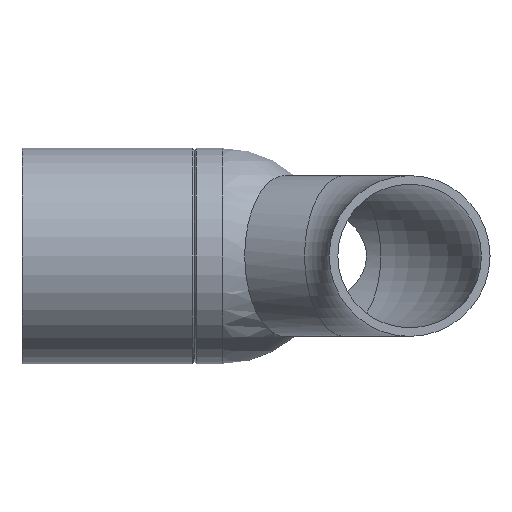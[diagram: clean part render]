
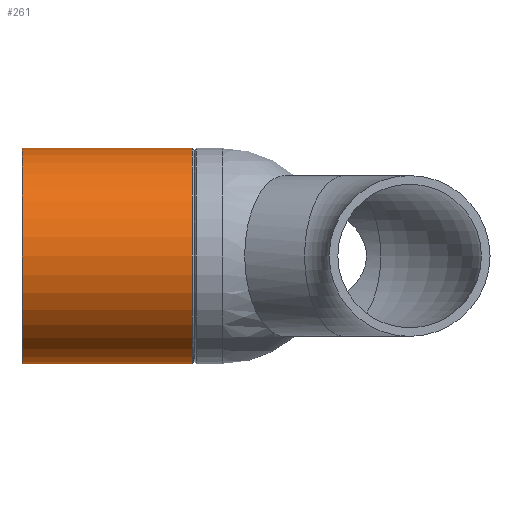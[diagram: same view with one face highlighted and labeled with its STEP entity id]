
A CAD part, front view. The second image highlights one B-rep face of the part: STEP entity #261.
In plain terms, the highlighted cylindrical face has radius 37.5 mm (diameter 75 mm), a full revolution.
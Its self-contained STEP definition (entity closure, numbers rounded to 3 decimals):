
#44=FACE_BOUND($,#101,.T.);
#64=FACE_OUTER_BOUND($,#100,.T.);
#100=EDGE_LOOP($,(#217));
#101=EDGE_LOOP($,(#218));
#120=CIRCLE($,#283,37.5);
#133=CIRCLE($,#307,37.5);
#143=VERTEX_POINT($,#433);
#156=VERTEX_POINT($,#470);
#166=EDGE_CURVE($,#143,#143,#120,.T.);
#180=EDGE_CURVE($,#156,#156,#133,.T.);
#217=ORIENTED_EDGE($,*,*,#166,.T.);
#218=ORIENTED_EDGE($,*,*,#180,.T.);
#241=CYLINDRICAL_SURFACE($,#306,37.5);
#261=ADVANCED_FACE($,(#64,#44),#241,.T.);
#283=AXIS2_PLACEMENT_3D($,#434,#344,#345);
#306=AXIS2_PLACEMENT_3D($,#469,#390,#391);
#307=AXIS2_PLACEMENT_3D($,#471,#392,#393);
#344=DIRECTION('center_axis',(-1.,0.,0.));
#345=DIRECTION('ref_axis',(0.,1.,0.));
#390=DIRECTION('center_axis',(1.,0.,0.));
#391=DIRECTION('ref_axis',(0.,1.,0.));
#392=DIRECTION('center_axis',(1.,0.,0.));
#393=DIRECTION('ref_axis',(0.,1.,0.));
#433=CARTESIAN_POINT('',(59.25,-37.5,0.));
#434=CARTESIAN_POINT('Origin',(59.25,0.,0.));
#469=CARTESIAN_POINT('Origin',(35.,0.,0.));
#470=CARTESIAN_POINT('',(0.,37.5,0.));
#471=CARTESIAN_POINT('Origin',(0.,0.,0.));
